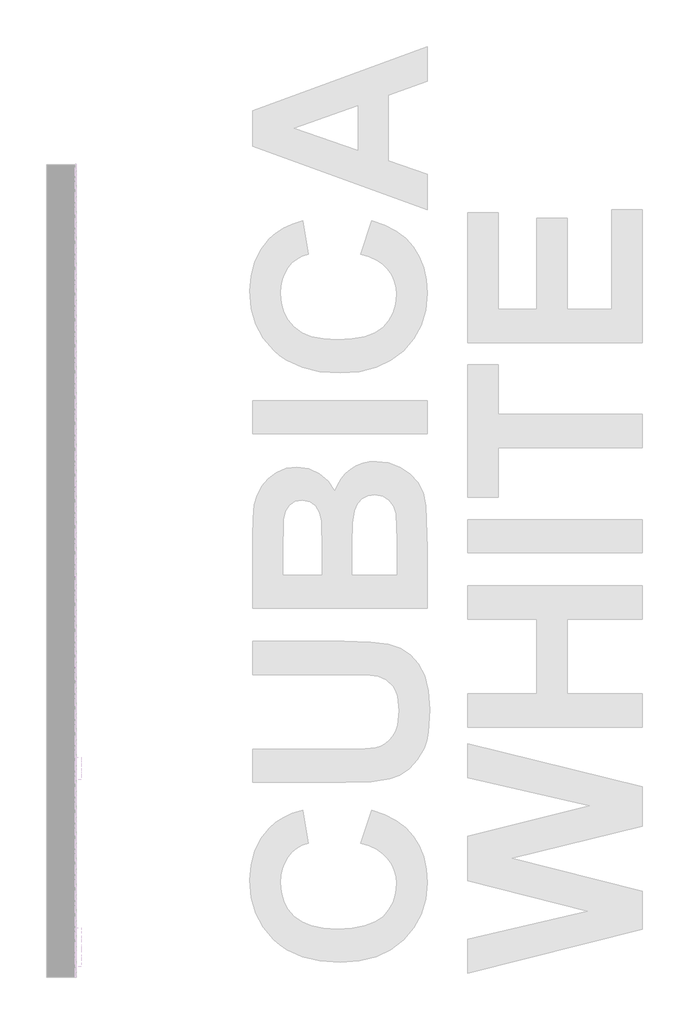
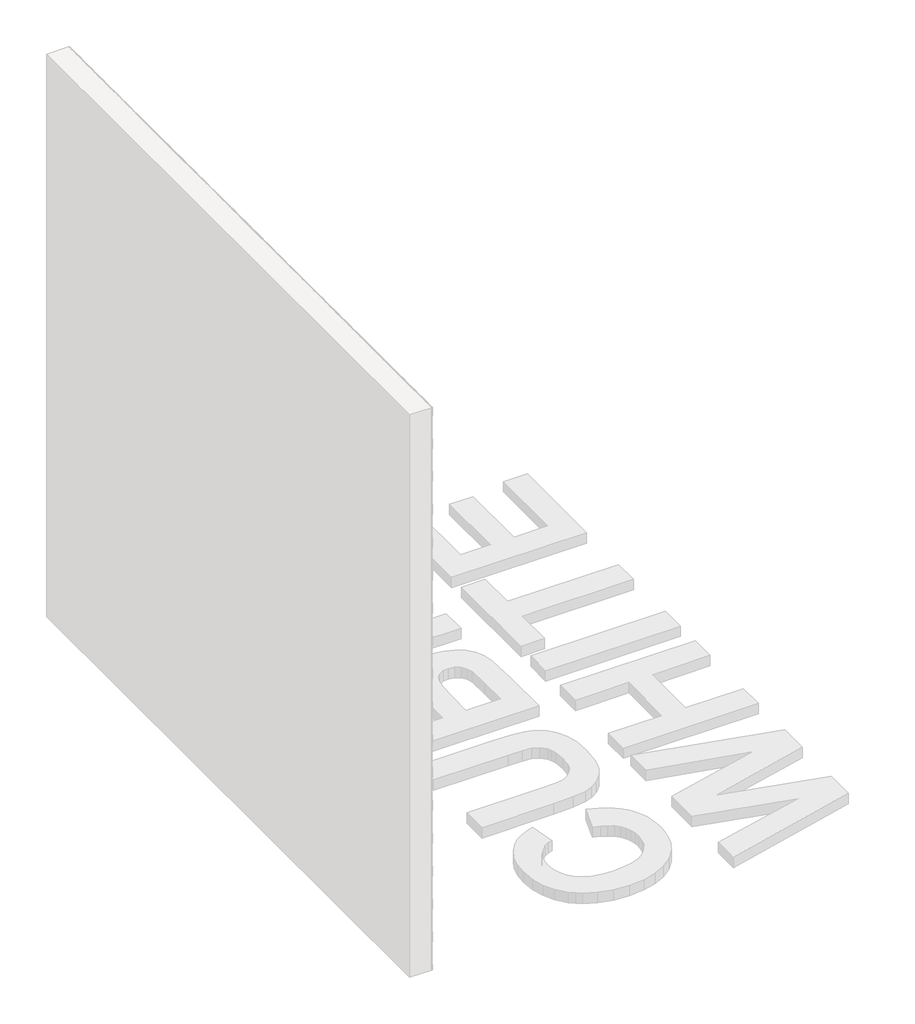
# One storey, part 110 of 121: 144 proxies.
"""IFC4 building model written with IfcOpenShell, lengths in millimetres."""

from ifc_helpers import new_model, si_unit, origin, place, context, project, spatial, transform, mapped, element, save
from components import generic_models_b2b2c5c1, generic_models_9bf73f6f, generic_models_5d175859

model = new_model("IFC4")

# Units and contexts
model_context = context("Model", 3, world=origin())
ifc_project = project(units=[si_unit("LENGTHUNIT", "METRE", prefix="MILLI")], contexts=[model_context])

# Site, building, storey
site = spatial("IfcSite", under=ifc_project)
building = spatial("IfcBuilding", under=site)
storey = spatial("IfcBuildingStorey", under=building, Name="PORTOBELLO - SHOWROOM", Elevation=0.0)

# Proxies
placement = place(None, origin())
generic_models_shape = generic_models_b2b2c5c1(model_context)
element("IfcBuildingElementProxy", 1, Name="PBSHOP - CUBICA WHITE 4,8X8,3 : CUBICA WHITE - POSIÇÃO 01", ObjectType="PBSHOP - CUBICA WHITE 4,8X8,3 : CUBICA WHITE - POSIÇÃO 01", at=placement, inside=storey, context=model_context, shape_type="MappedRepresentation", body=[
    mapped(generic_models_shape, transform((150369.5341846, 20967.9134958, 1854.9188494), x_axis=(0.0, 1.0, 0.0), y_axis=(0.0, 0.0, 1.0), z_axis=(1.0, 0.0, 0.0))),
])
element("IfcBuildingElementProxy", 2, Name="PBSHOP - CUBICA WHITE 4,8X8,3 : CUBICA WHITE - POSIÇÃO 01", ObjectType="PBSHOP - CUBICA WHITE 4,8X8,3 : CUBICA WHITE - POSIÇÃO 01", at=placement, inside=storey, context=model_context, shape_type="MappedRepresentation", body=[
    mapped(generic_models_shape, transform((150369.5341846, 20014.1011688, 1933.8534878), x_axis=(0.0, 1.0, 0.0), y_axis=(0.0, 0.0, 1.0), z_axis=(1.0, 0.0, 0.0))),
])
element("IfcBuildingElementProxy", 3, Name="PBSHOP - CUBICA WHITE 4,8X8,3 : CUBICA WHITE - POSIÇÃO 01", ObjectType="PBSHOP - CUBICA WHITE 4,8X8,3 : CUBICA WHITE - POSIÇÃO 01", at=placement, inside=storey, context=model_context, shape_type="MappedRepresentation", body=[
    mapped(generic_models_shape, transform((150369.5341846, 20104.940438, 1933.8534878), x_axis=(0.0, 1.0, 0.0), y_axis=(0.0, 0.0, 1.0), z_axis=(1.0, 0.0, 0.0))),
])
element("IfcBuildingElementProxy", 4, Name="PBSHOP - CUBICA WHITE 4,8X8,3 : CUBICA WHITE - POSIÇÃO 01", ObjectType="PBSHOP - CUBICA WHITE 4,8X8,3 : CUBICA WHITE - POSIÇÃO 01", at=placement, inside=storey, context=model_context, shape_type="MappedRepresentation", body=[
    mapped(generic_models_shape, transform((150369.5341846, 20195.7797073, 1933.8534878), x_axis=(0.0, 1.0, 0.0), y_axis=(0.0, 0.0, 1.0), z_axis=(1.0, 0.0, 0.0))),
])
element("IfcBuildingElementProxy", 5, Name="PBSHOP - CUBICA WHITE 4,8X8,3 : CUBICA WHITE - POSIÇÃO 01", ObjectType="PBSHOP - CUBICA WHITE 4,8X8,3 : CUBICA WHITE - POSIÇÃO 01", at=placement, inside=storey, context=model_context, shape_type="MappedRepresentation", body=[
    mapped(generic_models_shape, transform((150369.5341846, 20286.6189765, 1933.8534878), x_axis=(0.0, 1.0, 0.0), y_axis=(0.0, 0.0, 1.0), z_axis=(1.0, 0.0, 0.0))),
])
element("IfcBuildingElementProxy", 6, Name="PBSHOP - CUBICA WHITE 4,8X8,3 : CUBICA WHITE - POSIÇÃO 01", ObjectType="PBSHOP - CUBICA WHITE 4,8X8,3 : CUBICA WHITE - POSIÇÃO 01", at=placement, inside=storey, context=model_context, shape_type="MappedRepresentation", body=[
    mapped(generic_models_shape, transform((150369.5341846, 20377.4582457, 1933.8534878), x_axis=(0.0, 1.0, 0.0), y_axis=(0.0, 0.0, 1.0), z_axis=(1.0, 0.0, 0.0))),
])
element("IfcBuildingElementProxy", 7, Name="PBSHOP - CUBICA WHITE 4,8X8,3 : CUBICA WHITE - POSIÇÃO 01", ObjectType="PBSHOP - CUBICA WHITE 4,8X8,3 : CUBICA WHITE - POSIÇÃO 01", at=placement, inside=storey, context=model_context, shape_type="MappedRepresentation", body=[
    mapped(generic_models_shape, transform((150369.5341846, 20468.297515, 1933.8534878), x_axis=(0.0, 1.0, 0.0), y_axis=(0.0, 0.0, 1.0), z_axis=(1.0, 0.0, 0.0))),
])
element("IfcBuildingElementProxy", 8, Name="PBSHOP - CUBICA WHITE 4,8X8,3 : CUBICA WHITE - POSIÇÃO 01", ObjectType="PBSHOP - CUBICA WHITE 4,8X8,3 : CUBICA WHITE - POSIÇÃO 01", at=placement, inside=storey, context=model_context, shape_type="MappedRepresentation", body=[
    mapped(generic_models_shape, transform((150369.5341846, 20559.1367842, 1933.8534878), x_axis=(0.0, 1.0, 0.0), y_axis=(0.0, 0.0, 1.0), z_axis=(1.0, 0.0, 0.0))),
])
element("IfcBuildingElementProxy", 9, Name="PBSHOP - CUBICA WHITE 4,8X8,3 : CUBICA WHITE - POSIÇÃO 01", ObjectType="PBSHOP - CUBICA WHITE 4,8X8,3 : CUBICA WHITE - POSIÇÃO 01", at=placement, inside=storey, context=model_context, shape_type="MappedRepresentation", body=[
    mapped(generic_models_shape, transform((150369.5341846, 20649.9760535, 1933.8534878), x_axis=(0.0, 1.0, 0.0), y_axis=(0.0, 0.0, 1.0), z_axis=(1.0, 0.0, 0.0))),
])
element("IfcBuildingElementProxy", 10, Name="PBSHOP - CUBICA WHITE 4,8X8,3 : CUBICA WHITE - POSIÇÃO 01", ObjectType="PBSHOP - CUBICA WHITE 4,8X8,3 : CUBICA WHITE - POSIÇÃO 01", at=placement, inside=storey, context=model_context, shape_type="MappedRepresentation", body=[
    mapped(generic_models_shape, transform((150369.5341846, 20740.8153227, 1933.8534878), x_axis=(0.0, 1.0, 0.0), y_axis=(0.0, 0.0, 1.0), z_axis=(1.0, 0.0, 0.0))),
])
element("IfcBuildingElementProxy", 11, Name="PBSHOP - CUBICA WHITE 4,8X8,3 : CUBICA WHITE - POSIÇÃO 01", ObjectType="PBSHOP - CUBICA WHITE 4,8X8,3 : CUBICA WHITE - POSIÇÃO 01", at=placement, inside=storey, context=model_context, shape_type="MappedRepresentation", body=[
    mapped(generic_models_shape, transform((150369.5341846, 20831.654592, 1933.8534878), x_axis=(0.0, 1.0, 0.0), y_axis=(0.0, 0.0, 1.0), z_axis=(1.0, 0.0, 0.0))),
])
element("IfcBuildingElementProxy", 12, Name="PBSHOP - CUBICA WHITE 4,8X8,3 : CUBICA WHITE - POSIÇÃO 01", ObjectType="PBSHOP - CUBICA WHITE 4,8X8,3 : CUBICA WHITE - POSIÇÃO 01", at=placement, inside=storey, context=model_context, shape_type="MappedRepresentation", body=[
    mapped(generic_models_shape, transform((150369.5341846, 20922.4938612, 1933.8534878), x_axis=(0.0, 1.0, 0.0), y_axis=(0.0, 0.0, 1.0), z_axis=(1.0, 0.0, 0.0))),
])
element("IfcBuildingElementProxy", 13, Name="PBSHOP - CUBICA WHITE 4,8X8,3 : CUBICA WHITE - POSIÇÃO 01", ObjectType="PBSHOP - CUBICA WHITE 4,8X8,3 : CUBICA WHITE - POSIÇÃO 01", at=placement, inside=storey, context=model_context, shape_type="MappedRepresentation", body=[
    mapped(generic_models_shape, transform((150369.5341846, 20059.5208034, 2012.7881262), x_axis=(0.0, 1.0, 0.0), y_axis=(0.0, 0.0, 1.0), z_axis=(1.0, 0.0, 0.0))),
])
element("IfcBuildingElementProxy", 14, Name="PBSHOP - CUBICA WHITE 4,8X8,3 : CUBICA WHITE - POSIÇÃO 01", ObjectType="PBSHOP - CUBICA WHITE 4,8X8,3 : CUBICA WHITE - POSIÇÃO 01", at=placement, inside=storey, context=model_context, shape_type="MappedRepresentation", body=[
    mapped(generic_models_shape, transform((150369.5341846, 20150.3600726, 2012.7881262), x_axis=(0.0, 1.0, 0.0), y_axis=(0.0, 0.0, 1.0), z_axis=(1.0, 0.0, 0.0))),
])
element("IfcBuildingElementProxy", 15, Name="PBSHOP - CUBICA WHITE 4,8X8,3 : CUBICA WHITE - POSIÇÃO 01", ObjectType="PBSHOP - CUBICA WHITE 4,8X8,3 : CUBICA WHITE - POSIÇÃO 01", at=placement, inside=storey, context=model_context, shape_type="MappedRepresentation", body=[
    mapped(generic_models_shape, transform((150369.5341846, 20241.1993419, 2012.7881262), x_axis=(0.0, 1.0, 0.0), y_axis=(0.0, 0.0, 1.0), z_axis=(1.0, 0.0, 0.0))),
])
element("IfcBuildingElementProxy", 16, Name="PBSHOP - CUBICA WHITE 4,8X8,3 : CUBICA WHITE - POSIÇÃO 01", ObjectType="PBSHOP - CUBICA WHITE 4,8X8,3 : CUBICA WHITE - POSIÇÃO 01", at=placement, inside=storey, context=model_context, shape_type="MappedRepresentation", body=[
    mapped(generic_models_shape, transform((150369.5341846, 20332.0386111, 2012.7881262), x_axis=(0.0, 1.0, 0.0), y_axis=(0.0, 0.0, 1.0), z_axis=(1.0, 0.0, 0.0))),
])
element("IfcBuildingElementProxy", 17, Name="PBSHOP - CUBICA WHITE 4,8X8,3 : CUBICA WHITE - POSIÇÃO 01", ObjectType="PBSHOP - CUBICA WHITE 4,8X8,3 : CUBICA WHITE - POSIÇÃO 01", at=placement, inside=storey, context=model_context, shape_type="MappedRepresentation", body=[
    mapped(generic_models_shape, transform((150369.5341846, 20422.8778804, 2012.7881262), x_axis=(0.0, 1.0, 0.0), y_axis=(0.0, 0.0, 1.0), z_axis=(1.0, 0.0, 0.0))),
])
element("IfcBuildingElementProxy", 18, Name="PBSHOP - CUBICA WHITE 4,8X8,3 : CUBICA WHITE - POSIÇÃO 01", ObjectType="PBSHOP - CUBICA WHITE 4,8X8,3 : CUBICA WHITE - POSIÇÃO 01", at=placement, inside=storey, context=model_context, shape_type="MappedRepresentation", body=[
    mapped(generic_models_shape, transform((150369.5341846, 20513.7171496, 2012.7881262), x_axis=(0.0, 1.0, 0.0), y_axis=(0.0, 0.0, 1.0), z_axis=(1.0, 0.0, 0.0))),
])
element("IfcBuildingElementProxy", 19, Name="PBSHOP - CUBICA WHITE 4,8X8,3 : CUBICA WHITE - POSIÇÃO 01", ObjectType="PBSHOP - CUBICA WHITE 4,8X8,3 : CUBICA WHITE - POSIÇÃO 01", at=placement, inside=storey, context=model_context, shape_type="MappedRepresentation", body=[
    mapped(generic_models_shape, transform((150369.5341846, 20604.5564189, 2012.7881262), x_axis=(0.0, 1.0, 0.0), y_axis=(0.0, 0.0, 1.0), z_axis=(1.0, 0.0, 0.0))),
])
element("IfcBuildingElementProxy", 20, Name="PBSHOP - CUBICA WHITE 4,8X8,3 : CUBICA WHITE - POSIÇÃO 01", ObjectType="PBSHOP - CUBICA WHITE 4,8X8,3 : CUBICA WHITE - POSIÇÃO 01", at=placement, inside=storey, context=model_context, shape_type="MappedRepresentation", body=[
    mapped(generic_models_shape, transform((150369.5341846, 20695.3956881, 2012.7881262), x_axis=(0.0, 1.0, 0.0), y_axis=(0.0, 0.0, 1.0), z_axis=(1.0, 0.0, 0.0))),
])
element("IfcBuildingElementProxy", 21, Name="PBSHOP - CUBICA WHITE 4,8X8,3 : CUBICA WHITE - POSIÇÃO 01", ObjectType="PBSHOP - CUBICA WHITE 4,8X8,3 : CUBICA WHITE - POSIÇÃO 01", at=placement, inside=storey, context=model_context, shape_type="MappedRepresentation", body=[
    mapped(generic_models_shape, transform((150369.5341846, 20786.2349573, 2012.7881262), x_axis=(0.0, 1.0, 0.0), y_axis=(0.0, 0.0, 1.0), z_axis=(1.0, 0.0, 0.0))),
])
element("IfcBuildingElementProxy", 22, Name="PBSHOP - CUBICA WHITE 4,8X8,3 : CUBICA WHITE - POSIÇÃO 01", ObjectType="PBSHOP - CUBICA WHITE 4,8X8,3 : CUBICA WHITE - POSIÇÃO 01", at=placement, inside=storey, context=model_context, shape_type="MappedRepresentation", body=[
    mapped(generic_models_shape, transform((150369.5341846, 20877.0742266, 2012.7881262), x_axis=(0.0, 1.0, 0.0), y_axis=(0.0, 0.0, 1.0), z_axis=(1.0, 0.0, 0.0))),
])
element("IfcBuildingElementProxy", 23, Name="PBSHOP - CUBICA WHITE 4,8X8,3 : CUBICA WHITE - POSIÇÃO 01", ObjectType="PBSHOP - CUBICA WHITE 4,8X8,3 : CUBICA WHITE - POSIÇÃO 01", at=placement, inside=storey, context=model_context, shape_type="MappedRepresentation", body=[
    mapped(generic_models_shape, transform((150369.5341846, 20967.9134958, 2012.7881262), x_axis=(0.0, 1.0, 0.0), y_axis=(0.0, 0.0, 1.0), z_axis=(1.0, 0.0, 0.0))),
])
element("IfcBuildingElementProxy", 24, Name="PBSHOP - CUBICA WHITE 4,8X8,3 : CUBICA WHITE - POSIÇÃO 01", ObjectType="PBSHOP - CUBICA WHITE 4,8X8,3 : CUBICA WHITE - POSIÇÃO 01", at=placement, inside=storey, context=model_context, shape_type="MappedRepresentation", body=[
    mapped(generic_models_shape, transform((150369.5341846, 20014.1011688, 2091.7227645), x_axis=(0.0, 1.0, 0.0), y_axis=(0.0, 0.0, 1.0), z_axis=(1.0, 0.0, 0.0))),
])
element("IfcBuildingElementProxy", 25, Name="PBSHOP - CUBICA WHITE 4,8X8,3 : CUBICA WHITE - POSIÇÃO 01", ObjectType="PBSHOP - CUBICA WHITE 4,8X8,3 : CUBICA WHITE - POSIÇÃO 01", at=placement, inside=storey, context=model_context, shape_type="MappedRepresentation", body=[
    mapped(generic_models_shape, transform((150369.5341846, 20104.940438, 2091.7227645), x_axis=(0.0, 1.0, 0.0), y_axis=(0.0, 0.0, 1.0), z_axis=(1.0, 0.0, 0.0))),
])
element("IfcBuildingElementProxy", 26, Name="PBSHOP - CUBICA WHITE 4,8X8,3 : CUBICA WHITE - POSIÇÃO 01", ObjectType="PBSHOP - CUBICA WHITE 4,8X8,3 : CUBICA WHITE - POSIÇÃO 01", at=placement, inside=storey, context=model_context, shape_type="MappedRepresentation", body=[
    mapped(generic_models_shape, transform((150369.5341846, 20195.7797073, 2091.7227645), x_axis=(0.0, 1.0, 0.0), y_axis=(0.0, 0.0, 1.0), z_axis=(1.0, 0.0, 0.0))),
])
element("IfcBuildingElementProxy", 27, Name="PBSHOP - CUBICA WHITE 4,8X8,3 : CUBICA WHITE - POSIÇÃO 01", ObjectType="PBSHOP - CUBICA WHITE 4,8X8,3 : CUBICA WHITE - POSIÇÃO 01", at=placement, inside=storey, context=model_context, shape_type="MappedRepresentation", body=[
    mapped(generic_models_shape, transform((150369.5341846, 20286.6189765, 2091.7227645), x_axis=(0.0, 1.0, 0.0), y_axis=(0.0, 0.0, 1.0), z_axis=(1.0, 0.0, 0.0))),
])
element("IfcBuildingElementProxy", 28, Name="PBSHOP - CUBICA WHITE 4,8X8,3 : CUBICA WHITE - POSIÇÃO 01", ObjectType="PBSHOP - CUBICA WHITE 4,8X8,3 : CUBICA WHITE - POSIÇÃO 01", at=placement, inside=storey, context=model_context, shape_type="MappedRepresentation", body=[
    mapped(generic_models_shape, transform((150369.5341846, 20377.4582457, 2091.7227645), x_axis=(0.0, 1.0, 0.0), y_axis=(0.0, 0.0, 1.0), z_axis=(1.0, 0.0, 0.0))),
])
element("IfcBuildingElementProxy", 29, Name="PBSHOP - CUBICA WHITE 4,8X8,3 : CUBICA WHITE - POSIÇÃO 01", ObjectType="PBSHOP - CUBICA WHITE 4,8X8,3 : CUBICA WHITE - POSIÇÃO 01", at=placement, inside=storey, context=model_context, shape_type="MappedRepresentation", body=[
    mapped(generic_models_shape, transform((150369.5341846, 20468.297515, 2091.7227645), x_axis=(0.0, 1.0, 0.0), y_axis=(0.0, 0.0, 1.0), z_axis=(1.0, 0.0, 0.0))),
])
element("IfcBuildingElementProxy", 30, Name="PBSHOP - CUBICA WHITE 4,8X8,3 : CUBICA WHITE - POSIÇÃO 01", ObjectType="PBSHOP - CUBICA WHITE 4,8X8,3 : CUBICA WHITE - POSIÇÃO 01", at=placement, inside=storey, context=model_context, shape_type="MappedRepresentation", body=[
    mapped(generic_models_shape, transform((150369.5341846, 20559.1367842, 2091.7227645), x_axis=(0.0, 1.0, 0.0), y_axis=(0.0, 0.0, 1.0), z_axis=(1.0, 0.0, 0.0))),
])
element("IfcBuildingElementProxy", 31, Name="PBSHOP - CUBICA WHITE 4,8X8,3 : CUBICA WHITE - POSIÇÃO 01", ObjectType="PBSHOP - CUBICA WHITE 4,8X8,3 : CUBICA WHITE - POSIÇÃO 01", at=placement, inside=storey, context=model_context, shape_type="MappedRepresentation", body=[
    mapped(generic_models_shape, transform((150369.5341846, 20649.9760535, 2091.7227645), x_axis=(0.0, 1.0, 0.0), y_axis=(0.0, 0.0, 1.0), z_axis=(1.0, 0.0, 0.0))),
])
element("IfcBuildingElementProxy", 32, Name="PBSHOP - CUBICA WHITE 4,8X8,3 : CUBICA WHITE - POSIÇÃO 01", ObjectType="PBSHOP - CUBICA WHITE 4,8X8,3 : CUBICA WHITE - POSIÇÃO 01", at=placement, inside=storey, context=model_context, shape_type="MappedRepresentation", body=[
    mapped(generic_models_shape, transform((150369.5341846, 20740.8153227, 2091.7227645), x_axis=(0.0, 1.0, 0.0), y_axis=(0.0, 0.0, 1.0), z_axis=(1.0, 0.0, 0.0))),
])
element("IfcBuildingElementProxy", 33, Name="PBSHOP - CUBICA WHITE 4,8X8,3 : CUBICA WHITE - POSIÇÃO 01", ObjectType="PBSHOP - CUBICA WHITE 4,8X8,3 : CUBICA WHITE - POSIÇÃO 01", at=placement, inside=storey, context=model_context, shape_type="MappedRepresentation", body=[
    mapped(generic_models_shape, transform((150369.5341846, 20831.654592, 2091.7227645), x_axis=(0.0, 1.0, 0.0), y_axis=(0.0, 0.0, 1.0), z_axis=(1.0, 0.0, 0.0))),
])
element("IfcBuildingElementProxy", 34, Name="PBSHOP - CUBICA WHITE 4,8X8,3 : CUBICA WHITE - POSIÇÃO 01", ObjectType="PBSHOP - CUBICA WHITE 4,8X8,3 : CUBICA WHITE - POSIÇÃO 01", at=placement, inside=storey, context=model_context, shape_type="MappedRepresentation", body=[
    mapped(generic_models_shape, transform((150369.5341846, 20922.4938612, 2091.7227645), x_axis=(0.0, 1.0, 0.0), y_axis=(0.0, 0.0, 1.0), z_axis=(1.0, 0.0, 0.0))),
])
element("IfcBuildingElementProxy", 35, Name="PBSHOP - CUBICA WHITE 4,8X8,3 : CUBICA WHITE - POSIÇÃO 01", ObjectType="PBSHOP - CUBICA WHITE 4,8X8,3 : CUBICA WHITE - POSIÇÃO 01", at=placement, inside=storey, context=model_context, shape_type="MappedRepresentation", body=[
    mapped(generic_models_shape, transform((150369.5341846, 20059.5208034, 2170.6574029), x_axis=(0.0, 1.0, 0.0), y_axis=(0.0, 0.0, 1.0), z_axis=(1.0, 0.0, 0.0))),
])
element("IfcBuildingElementProxy", 36, Name="PBSHOP - CUBICA WHITE 4,8X8,3 : CUBICA WHITE - POSIÇÃO 01", ObjectType="PBSHOP - CUBICA WHITE 4,8X8,3 : CUBICA WHITE - POSIÇÃO 01", at=placement, inside=storey, context=model_context, shape_type="MappedRepresentation", body=[
    mapped(generic_models_shape, transform((150369.5341846, 20150.3600726, 2170.6574029), x_axis=(0.0, 1.0, 0.0), y_axis=(0.0, 0.0, 1.0), z_axis=(1.0, 0.0, 0.0))),
])
element("IfcBuildingElementProxy", 37, Name="PBSHOP - CUBICA WHITE 4,8X8,3 : CUBICA WHITE - POSIÇÃO 01", ObjectType="PBSHOP - CUBICA WHITE 4,8X8,3 : CUBICA WHITE - POSIÇÃO 01", at=placement, inside=storey, context=model_context, shape_type="MappedRepresentation", body=[
    mapped(generic_models_shape, transform((150369.5341846, 20241.1993419, 2170.6574029), x_axis=(0.0, 1.0, 0.0), y_axis=(0.0, 0.0, 1.0), z_axis=(1.0, 0.0, 0.0))),
])
element("IfcBuildingElementProxy", 38, Name="PBSHOP - CUBICA WHITE 4,8X8,3 : CUBICA WHITE - POSIÇÃO 01", ObjectType="PBSHOP - CUBICA WHITE 4,8X8,3 : CUBICA WHITE - POSIÇÃO 01", at=placement, inside=storey, context=model_context, shape_type="MappedRepresentation", body=[
    mapped(generic_models_shape, transform((150369.5341846, 20332.0386111, 2170.6574029), x_axis=(0.0, 1.0, 0.0), y_axis=(0.0, 0.0, 1.0), z_axis=(1.0, 0.0, 0.0))),
])
element("IfcBuildingElementProxy", 39, Name="PBSHOP - CUBICA WHITE 4,8X8,3 : CUBICA WHITE - POSIÇÃO 01", ObjectType="PBSHOP - CUBICA WHITE 4,8X8,3 : CUBICA WHITE - POSIÇÃO 01", at=placement, inside=storey, context=model_context, shape_type="MappedRepresentation", body=[
    mapped(generic_models_shape, transform((150369.5341846, 20422.8778804, 2170.6574029), x_axis=(0.0, 1.0, 0.0), y_axis=(0.0, 0.0, 1.0), z_axis=(1.0, 0.0, 0.0))),
])
element("IfcBuildingElementProxy", 40, Name="PBSHOP - CUBICA WHITE 4,8X8,3 : CUBICA WHITE - POSIÇÃO 01", ObjectType="PBSHOP - CUBICA WHITE 4,8X8,3 : CUBICA WHITE - POSIÇÃO 01", at=placement, inside=storey, context=model_context, shape_type="MappedRepresentation", body=[
    mapped(generic_models_shape, transform((150369.5341846, 20513.7171496, 2170.6574029), x_axis=(0.0, 1.0, 0.0), y_axis=(0.0, 0.0, 1.0), z_axis=(1.0, 0.0, 0.0))),
])
element("IfcBuildingElementProxy", 41, Name="PBSHOP - CUBICA WHITE 4,8X8,3 : CUBICA WHITE - POSIÇÃO 01", ObjectType="PBSHOP - CUBICA WHITE 4,8X8,3 : CUBICA WHITE - POSIÇÃO 01", at=placement, inside=storey, context=model_context, shape_type="MappedRepresentation", body=[
    mapped(generic_models_shape, transform((150369.5341846, 20604.5564189, 2170.6574029), x_axis=(0.0, 1.0, 0.0), y_axis=(0.0, 0.0, 1.0), z_axis=(1.0, 0.0, 0.0))),
])
element("IfcBuildingElementProxy", 42, Name="PBSHOP - CUBICA WHITE 4,8X8,3 : CUBICA WHITE - POSIÇÃO 01", ObjectType="PBSHOP - CUBICA WHITE 4,8X8,3 : CUBICA WHITE - POSIÇÃO 01", at=placement, inside=storey, context=model_context, shape_type="MappedRepresentation", body=[
    mapped(generic_models_shape, transform((150369.5341846, 20695.3956881, 2170.6574029), x_axis=(0.0, 1.0, 0.0), y_axis=(0.0, 0.0, 1.0), z_axis=(1.0, 0.0, 0.0))),
])
element("IfcBuildingElementProxy", 43, Name="PBSHOP - CUBICA WHITE 4,8X8,3 : CUBICA WHITE - POSIÇÃO 01", ObjectType="PBSHOP - CUBICA WHITE 4,8X8,3 : CUBICA WHITE - POSIÇÃO 01", at=placement, inside=storey, context=model_context, shape_type="MappedRepresentation", body=[
    mapped(generic_models_shape, transform((150369.5341846, 20786.2349573, 2170.6574029), x_axis=(0.0, 1.0, 0.0), y_axis=(0.0, 0.0, 1.0), z_axis=(1.0, 0.0, 0.0))),
])
element("IfcBuildingElementProxy", 44, Name="PBSHOP - CUBICA WHITE 4,8X8,3 : CUBICA WHITE - POSIÇÃO 01", ObjectType="PBSHOP - CUBICA WHITE 4,8X8,3 : CUBICA WHITE - POSIÇÃO 01", at=placement, inside=storey, context=model_context, shape_type="MappedRepresentation", body=[
    mapped(generic_models_shape, transform((150369.5341846, 20877.0742266, 2170.6574029), x_axis=(0.0, 1.0, 0.0), y_axis=(0.0, 0.0, 1.0), z_axis=(1.0, 0.0, 0.0))),
])
element("IfcBuildingElementProxy", 45, Name="PBSHOP - CUBICA WHITE 4,8X8,3 : CUBICA WHITE - POSIÇÃO 01", ObjectType="PBSHOP - CUBICA WHITE 4,8X8,3 : CUBICA WHITE - POSIÇÃO 01", at=placement, inside=storey, context=model_context, shape_type="MappedRepresentation", body=[
    mapped(generic_models_shape, transform((150369.5341846, 20967.9134958, 2170.6574029), x_axis=(0.0, 1.0, 0.0), y_axis=(0.0, 0.0, 1.0), z_axis=(1.0, 0.0, 0.0))),
])
generic_models_2_shape = generic_models_9bf73f6f(model_context)
element("IfcBuildingElementProxy", 46, Name="PBSHOP - CUBICA WHITE 4,8X8,3 : CUBICA WHITE - POSIÇÃO 03", ObjectType="PBSHOP - CUBICA WHITE 4,8X8,3 : CUBICA WHITE - POSIÇÃO 03", at=placement, inside=storey, context=model_context, shape_type="MappedRepresentation", body=[
    mapped(generic_models_2_shape, transform((150369.5341846, 20036.8131452, 1815.4103198), x_axis=(0.0, 1.0, 0.0), y_axis=(0.0, 0.0, 1.0), z_axis=(1.0, 0.0, 0.0))),
])
element("IfcBuildingElementProxy", 47, Name="PBSHOP - CUBICA WHITE 4,8X8,3 : CUBICA WHITE - POSIÇÃO 03", ObjectType="PBSHOP - CUBICA WHITE 4,8X8,3 : CUBICA WHITE - POSIÇÃO 03", at=placement, inside=storey, context=model_context, shape_type="MappedRepresentation", body=[
    mapped(generic_models_2_shape, transform((150369.5341846, 20127.6524145, 1815.4103198), x_axis=(0.0, 1.0, 0.0), y_axis=(0.0, 0.0, 1.0), z_axis=(1.0, 0.0, 0.0))),
])
element("IfcBuildingElementProxy", 48, Name="PBSHOP - CUBICA WHITE 4,8X8,3 : CUBICA WHITE - POSIÇÃO 03", ObjectType="PBSHOP - CUBICA WHITE 4,8X8,3 : CUBICA WHITE - POSIÇÃO 03", at=placement, inside=storey, context=model_context, shape_type="MappedRepresentation", body=[
    mapped(generic_models_2_shape, transform((150369.5341846, 20218.4916837, 1815.4103198), x_axis=(0.0, 1.0, 0.0), y_axis=(0.0, 0.0, 1.0), z_axis=(1.0, 0.0, 0.0))),
])
element("IfcBuildingElementProxy", 49, Name="PBSHOP - CUBICA WHITE 4,8X8,3 : CUBICA WHITE - POSIÇÃO 03", ObjectType="PBSHOP - CUBICA WHITE 4,8X8,3 : CUBICA WHITE - POSIÇÃO 03", at=placement, inside=storey, context=model_context, shape_type="MappedRepresentation", body=[
    mapped(generic_models_2_shape, transform((150369.5341846, 20309.330953, 1815.4103198), x_axis=(0.0, 1.0, 0.0), y_axis=(0.0, 0.0, 1.0), z_axis=(1.0, 0.0, 0.0))),
])
element("IfcBuildingElementProxy", 50, Name="PBSHOP - CUBICA WHITE 4,8X8,3 : CUBICA WHITE - POSIÇÃO 03", ObjectType="PBSHOP - CUBICA WHITE 4,8X8,3 : CUBICA WHITE - POSIÇÃO 03", at=placement, inside=storey, context=model_context, shape_type="MappedRepresentation", body=[
    mapped(generic_models_2_shape, transform((150369.5341846, 20400.1702222, 1815.4103198), x_axis=(0.0, 1.0, 0.0), y_axis=(0.0, 0.0, 1.0), z_axis=(1.0, 0.0, 0.0))),
])
element("IfcBuildingElementProxy", 51, Name="PBSHOP - CUBICA WHITE 4,8X8,3 : CUBICA WHITE - POSIÇÃO 03", ObjectType="PBSHOP - CUBICA WHITE 4,8X8,3 : CUBICA WHITE - POSIÇÃO 03", at=placement, inside=storey, context=model_context, shape_type="MappedRepresentation", body=[
    mapped(generic_models_2_shape, transform((150369.5341846, 20491.0094915, 1815.4103198), x_axis=(0.0, 1.0, 0.0), y_axis=(0.0, 0.0, 1.0), z_axis=(1.0, 0.0, 0.0))),
])
element("IfcBuildingElementProxy", 52, Name="PBSHOP - CUBICA WHITE 4,8X8,3 : CUBICA WHITE - POSIÇÃO 03", ObjectType="PBSHOP - CUBICA WHITE 4,8X8,3 : CUBICA WHITE - POSIÇÃO 03", at=placement, inside=storey, context=model_context, shape_type="MappedRepresentation", body=[
    mapped(generic_models_2_shape, transform((150369.5341846, 20581.8487607, 1815.4103198), x_axis=(0.0, 1.0, 0.0), y_axis=(0.0, 0.0, 1.0), z_axis=(1.0, 0.0, 0.0))),
])
element("IfcBuildingElementProxy", 53, Name="PBSHOP - CUBICA WHITE 4,8X8,3 : CUBICA WHITE - POSIÇÃO 03", ObjectType="PBSHOP - CUBICA WHITE 4,8X8,3 : CUBICA WHITE - POSIÇÃO 03", at=placement, inside=storey, context=model_context, shape_type="MappedRepresentation", body=[
    mapped(generic_models_2_shape, transform((150369.5341846, 20672.6880299, 1815.4103198), x_axis=(0.0, 1.0, 0.0), y_axis=(0.0, 0.0, 1.0), z_axis=(1.0, 0.0, 0.0))),
])
element("IfcBuildingElementProxy", 54, Name="PBSHOP - CUBICA WHITE 4,8X8,3 : CUBICA WHITE - POSIÇÃO 03", ObjectType="PBSHOP - CUBICA WHITE 4,8X8,3 : CUBICA WHITE - POSIÇÃO 03", at=placement, inside=storey, context=model_context, shape_type="MappedRepresentation", body=[
    mapped(generic_models_2_shape, transform((150369.5341846, 20763.5272992, 1815.4103198), x_axis=(0.0, 1.0, 0.0), y_axis=(0.0, 0.0, 1.0), z_axis=(1.0, 0.0, 0.0))),
])
element("IfcBuildingElementProxy", 55, Name="PBSHOP - CUBICA WHITE 4,8X8,3 : CUBICA WHITE - POSIÇÃO 03", ObjectType="PBSHOP - CUBICA WHITE 4,8X8,3 : CUBICA WHITE - POSIÇÃO 03", at=placement, inside=storey, context=model_context, shape_type="MappedRepresentation", body=[
    mapped(generic_models_2_shape, transform((150369.5341846, 20854.3665684, 1815.4103198), x_axis=(0.0, 1.0, 0.0), y_axis=(0.0, 0.0, 1.0), z_axis=(1.0, 0.0, 0.0))),
])
element("IfcBuildingElementProxy", 56, Name="PBSHOP - CUBICA WHITE 4,8X8,3 : CUBICA WHITE - POSIÇÃO 03", ObjectType="PBSHOP - CUBICA WHITE 4,8X8,3 : CUBICA WHITE - POSIÇÃO 03", at=placement, inside=storey, context=model_context, shape_type="MappedRepresentation", body=[
    mapped(generic_models_2_shape, transform((150369.5341846, 20945.2058377, 1815.4103198), x_axis=(0.0, 1.0, 0.0), y_axis=(0.0, 0.0, 1.0), z_axis=(1.0, 0.0, 0.0))),
])
element("IfcBuildingElementProxy", 57, Name="PBSHOP - CUBICA WHITE 4,8X8,3 : CUBICA WHITE - POSIÇÃO 03", ObjectType="PBSHOP - CUBICA WHITE 4,8X8,3 : CUBICA WHITE - POSIÇÃO 03", at=placement, inside=storey, context=model_context, shape_type="MappedRepresentation", body=[
    mapped(generic_models_2_shape, transform((150369.5341846, 20082.2327799, 1894.3449582), x_axis=(0.0, 1.0, 0.0), y_axis=(0.0, 0.0, 1.0), z_axis=(1.0, 0.0, 0.0))),
])
element("IfcBuildingElementProxy", 58, Name="PBSHOP - CUBICA WHITE 4,8X8,3 : CUBICA WHITE - POSIÇÃO 03", ObjectType="PBSHOP - CUBICA WHITE 4,8X8,3 : CUBICA WHITE - POSIÇÃO 03", at=placement, inside=storey, context=model_context, shape_type="MappedRepresentation", body=[
    mapped(generic_models_2_shape, transform((150369.5341846, 20173.0720491, 1894.3449582), x_axis=(0.0, 1.0, 0.0), y_axis=(0.0, 0.0, 1.0), z_axis=(1.0, 0.0, 0.0))),
])
element("IfcBuildingElementProxy", 59, Name="PBSHOP - CUBICA WHITE 4,8X8,3 : CUBICA WHITE - POSIÇÃO 03", ObjectType="PBSHOP - CUBICA WHITE 4,8X8,3 : CUBICA WHITE - POSIÇÃO 03", at=placement, inside=storey, context=model_context, shape_type="MappedRepresentation", body=[
    mapped(generic_models_2_shape, transform((150369.5341846, 20263.9113184, 1894.3449582), x_axis=(0.0, 1.0, 0.0), y_axis=(0.0, 0.0, 1.0), z_axis=(1.0, 0.0, 0.0))),
])
element("IfcBuildingElementProxy", 60, Name="PBSHOP - CUBICA WHITE 4,8X8,3 : CUBICA WHITE - POSIÇÃO 03", ObjectType="PBSHOP - CUBICA WHITE 4,8X8,3 : CUBICA WHITE - POSIÇÃO 03", at=placement, inside=storey, context=model_context, shape_type="MappedRepresentation", body=[
    mapped(generic_models_2_shape, transform((150369.5341846, 20354.7505876, 1894.3449582), x_axis=(0.0, 1.0, 0.0), y_axis=(0.0, 0.0, 1.0), z_axis=(1.0, 0.0, 0.0))),
])
element("IfcBuildingElementProxy", 61, Name="PBSHOP - CUBICA WHITE 4,8X8,3 : CUBICA WHITE - POSIÇÃO 03", ObjectType="PBSHOP - CUBICA WHITE 4,8X8,3 : CUBICA WHITE - POSIÇÃO 03", at=placement, inside=storey, context=model_context, shape_type="MappedRepresentation", body=[
    mapped(generic_models_2_shape, transform((150369.5341846, 20445.5898568, 1894.3449582), x_axis=(0.0, 1.0, 0.0), y_axis=(0.0, 0.0, 1.0), z_axis=(1.0, 0.0, 0.0))),
])
element("IfcBuildingElementProxy", 62, Name="PBSHOP - CUBICA WHITE 4,8X8,3 : CUBICA WHITE - POSIÇÃO 03", ObjectType="PBSHOP - CUBICA WHITE 4,8X8,3 : CUBICA WHITE - POSIÇÃO 03", at=placement, inside=storey, context=model_context, shape_type="MappedRepresentation", body=[
    mapped(generic_models_2_shape, transform((150369.5341846, 20536.4291261, 1894.3449582), x_axis=(0.0, 1.0, 0.0), y_axis=(0.0, 0.0, 1.0), z_axis=(1.0, 0.0, 0.0))),
])
element("IfcBuildingElementProxy", 63, Name="PBSHOP - CUBICA WHITE 4,8X8,3 : CUBICA WHITE - POSIÇÃO 03", ObjectType="PBSHOP - CUBICA WHITE 4,8X8,3 : CUBICA WHITE - POSIÇÃO 03", at=placement, inside=storey, context=model_context, shape_type="MappedRepresentation", body=[
    mapped(generic_models_2_shape, transform((150369.5341846, 20627.2683953, 1894.3449582), x_axis=(0.0, 1.0, 0.0), y_axis=(0.0, 0.0, 1.0), z_axis=(1.0, 0.0, 0.0))),
])
element("IfcBuildingElementProxy", 64, Name="PBSHOP - CUBICA WHITE 4,8X8,3 : CUBICA WHITE - POSIÇÃO 03", ObjectType="PBSHOP - CUBICA WHITE 4,8X8,3 : CUBICA WHITE - POSIÇÃO 03", at=placement, inside=storey, context=model_context, shape_type="MappedRepresentation", body=[
    mapped(generic_models_2_shape, transform((150369.5341846, 20718.1076646, 1894.3449582), x_axis=(0.0, 1.0, 0.0), y_axis=(0.0, 0.0, 1.0), z_axis=(1.0, 0.0, 0.0))),
])
element("IfcBuildingElementProxy", 65, Name="PBSHOP - CUBICA WHITE 4,8X8,3 : CUBICA WHITE - POSIÇÃO 03", ObjectType="PBSHOP - CUBICA WHITE 4,8X8,3 : CUBICA WHITE - POSIÇÃO 03", at=placement, inside=storey, context=model_context, shape_type="MappedRepresentation", body=[
    mapped(generic_models_2_shape, transform((150369.5341846, 20808.9469338, 1894.3449582), x_axis=(0.0, 1.0, 0.0), y_axis=(0.0, 0.0, 1.0), z_axis=(1.0, 0.0, 0.0))),
])
element("IfcBuildingElementProxy", 66, Name="PBSHOP - CUBICA WHITE 4,8X8,3 : CUBICA WHITE - POSIÇÃO 03", ObjectType="PBSHOP - CUBICA WHITE 4,8X8,3 : CUBICA WHITE - POSIÇÃO 03", at=placement, inside=storey, context=model_context, shape_type="MappedRepresentation", body=[
    mapped(generic_models_2_shape, transform((150369.5341846, 20899.7862031, 1894.3449582), x_axis=(0.0, 1.0, 0.0), y_axis=(0.0, 0.0, 1.0), z_axis=(1.0, 0.0, 0.0))),
])
element("IfcBuildingElementProxy", 67, Name="PBSHOP - CUBICA WHITE 4,8X8,3 : CUBICA WHITE - POSIÇÃO 03", ObjectType="PBSHOP - CUBICA WHITE 4,8X8,3 : CUBICA WHITE - POSIÇÃO 03", at=placement, inside=storey, context=model_context, shape_type="MappedRepresentation", body=[
    mapped(generic_models_2_shape, transform((150369.5341846, 20990.6254723, 1894.3449582), x_axis=(0.0, 1.0, 0.0), y_axis=(0.0, 0.0, 1.0), z_axis=(1.0, 0.0, 0.0))),
])
element("IfcBuildingElementProxy", 68, Name="PBSHOP - CUBICA WHITE 4,8X8,3 : CUBICA WHITE - POSIÇÃO 03", ObjectType="PBSHOP - CUBICA WHITE 4,8X8,3 : CUBICA WHITE - POSIÇÃO 03", at=placement, inside=storey, context=model_context, shape_type="MappedRepresentation", body=[
    mapped(generic_models_2_shape, transform((150369.5341846, 20036.8131452, 1973.2795966), x_axis=(0.0, 1.0, 0.0), y_axis=(0.0, 0.0, 1.0), z_axis=(1.0, 0.0, 0.0))),
])
element("IfcBuildingElementProxy", 69, Name="PBSHOP - CUBICA WHITE 4,8X8,3 : CUBICA WHITE - POSIÇÃO 03", ObjectType="PBSHOP - CUBICA WHITE 4,8X8,3 : CUBICA WHITE - POSIÇÃO 03", at=placement, inside=storey, context=model_context, shape_type="MappedRepresentation", body=[
    mapped(generic_models_2_shape, transform((150369.5341846, 20127.6524145, 1973.2795966), x_axis=(0.0, 1.0, 0.0), y_axis=(0.0, 0.0, 1.0), z_axis=(1.0, 0.0, 0.0))),
])
element("IfcBuildingElementProxy", 70, Name="PBSHOP - CUBICA WHITE 4,8X8,3 : CUBICA WHITE - POSIÇÃO 03", ObjectType="PBSHOP - CUBICA WHITE 4,8X8,3 : CUBICA WHITE - POSIÇÃO 03", at=placement, inside=storey, context=model_context, shape_type="MappedRepresentation", body=[
    mapped(generic_models_2_shape, transform((150369.5341846, 20218.4916837, 1973.2795966), x_axis=(0.0, 1.0, 0.0), y_axis=(0.0, 0.0, 1.0), z_axis=(1.0, 0.0, 0.0))),
])
element("IfcBuildingElementProxy", 71, Name="PBSHOP - CUBICA WHITE 4,8X8,3 : CUBICA WHITE - POSIÇÃO 03", ObjectType="PBSHOP - CUBICA WHITE 4,8X8,3 : CUBICA WHITE - POSIÇÃO 03", at=placement, inside=storey, context=model_context, shape_type="MappedRepresentation", body=[
    mapped(generic_models_2_shape, transform((150369.5341846, 20309.330953, 1973.2795966), x_axis=(0.0, 1.0, 0.0), y_axis=(0.0, 0.0, 1.0), z_axis=(1.0, 0.0, 0.0))),
])
element("IfcBuildingElementProxy", 72, Name="PBSHOP - CUBICA WHITE 4,8X8,3 : CUBICA WHITE - POSIÇÃO 03", ObjectType="PBSHOP - CUBICA WHITE 4,8X8,3 : CUBICA WHITE - POSIÇÃO 03", at=placement, inside=storey, context=model_context, shape_type="MappedRepresentation", body=[
    mapped(generic_models_2_shape, transform((150369.5341846, 20400.1702222, 1973.2795966), x_axis=(0.0, 1.0, 0.0), y_axis=(0.0, 0.0, 1.0), z_axis=(1.0, 0.0, 0.0))),
])
element("IfcBuildingElementProxy", 73, Name="PBSHOP - CUBICA WHITE 4,8X8,3 : CUBICA WHITE - POSIÇÃO 03", ObjectType="PBSHOP - CUBICA WHITE 4,8X8,3 : CUBICA WHITE - POSIÇÃO 03", at=placement, inside=storey, context=model_context, shape_type="MappedRepresentation", body=[
    mapped(generic_models_2_shape, transform((150369.5341846, 20491.0094915, 1973.2795966), x_axis=(0.0, 1.0, 0.0), y_axis=(0.0, 0.0, 1.0), z_axis=(1.0, 0.0, 0.0))),
])
element("IfcBuildingElementProxy", 74, Name="PBSHOP - CUBICA WHITE 4,8X8,3 : CUBICA WHITE - POSIÇÃO 03", ObjectType="PBSHOP - CUBICA WHITE 4,8X8,3 : CUBICA WHITE - POSIÇÃO 03", at=placement, inside=storey, context=model_context, shape_type="MappedRepresentation", body=[
    mapped(generic_models_2_shape, transform((150369.5341846, 20581.8487607, 1973.2795966), x_axis=(0.0, 1.0, 0.0), y_axis=(0.0, 0.0, 1.0), z_axis=(1.0, 0.0, 0.0))),
])
element("IfcBuildingElementProxy", 75, Name="PBSHOP - CUBICA WHITE 4,8X8,3 : CUBICA WHITE - POSIÇÃO 03", ObjectType="PBSHOP - CUBICA WHITE 4,8X8,3 : CUBICA WHITE - POSIÇÃO 03", at=placement, inside=storey, context=model_context, shape_type="MappedRepresentation", body=[
    mapped(generic_models_2_shape, transform((150369.5341846, 20672.6880299, 1973.2795966), x_axis=(0.0, 1.0, 0.0), y_axis=(0.0, 0.0, 1.0), z_axis=(1.0, 0.0, 0.0))),
])
element("IfcBuildingElementProxy", 76, Name="PBSHOP - CUBICA WHITE 4,8X8,3 : CUBICA WHITE - POSIÇÃO 03", ObjectType="PBSHOP - CUBICA WHITE 4,8X8,3 : CUBICA WHITE - POSIÇÃO 03", at=placement, inside=storey, context=model_context, shape_type="MappedRepresentation", body=[
    mapped(generic_models_2_shape, transform((150369.5341846, 20763.5272992, 1973.2795966), x_axis=(0.0, 1.0, 0.0), y_axis=(0.0, 0.0, 1.0), z_axis=(1.0, 0.0, 0.0))),
])
element("IfcBuildingElementProxy", 77, Name="PBSHOP - CUBICA WHITE 4,8X8,3 : CUBICA WHITE - POSIÇÃO 03", ObjectType="PBSHOP - CUBICA WHITE 4,8X8,3 : CUBICA WHITE - POSIÇÃO 03", at=placement, inside=storey, context=model_context, shape_type="MappedRepresentation", body=[
    mapped(generic_models_2_shape, transform((150369.5341846, 20854.3665684, 1973.2795966), x_axis=(0.0, 1.0, 0.0), y_axis=(0.0, 0.0, 1.0), z_axis=(1.0, 0.0, 0.0))),
])
element("IfcBuildingElementProxy", 78, Name="PBSHOP - CUBICA WHITE 4,8X8,3 : CUBICA WHITE - POSIÇÃO 03", ObjectType="PBSHOP - CUBICA WHITE 4,8X8,3 : CUBICA WHITE - POSIÇÃO 03", at=placement, inside=storey, context=model_context, shape_type="MappedRepresentation", body=[
    mapped(generic_models_2_shape, transform((150369.5341846, 20945.2058377, 1973.2795966), x_axis=(0.0, 1.0, 0.0), y_axis=(0.0, 0.0, 1.0), z_axis=(1.0, 0.0, 0.0))),
])
element("IfcBuildingElementProxy", 79, Name="PBSHOP - CUBICA WHITE 4,8X8,3 : CUBICA WHITE - POSIÇÃO 03", ObjectType="PBSHOP - CUBICA WHITE 4,8X8,3 : CUBICA WHITE - POSIÇÃO 03", at=placement, inside=storey, context=model_context, shape_type="MappedRepresentation", body=[
    mapped(generic_models_2_shape, transform((150369.5341846, 20082.2327799, 2052.2142349), x_axis=(0.0, 1.0, 0.0), y_axis=(0.0, 0.0, 1.0), z_axis=(1.0, 0.0, 0.0))),
])
element("IfcBuildingElementProxy", 80, Name="PBSHOP - CUBICA WHITE 4,8X8,3 : CUBICA WHITE - POSIÇÃO 03", ObjectType="PBSHOP - CUBICA WHITE 4,8X8,3 : CUBICA WHITE - POSIÇÃO 03", at=placement, inside=storey, context=model_context, shape_type="MappedRepresentation", body=[
    mapped(generic_models_2_shape, transform((150369.5341846, 20173.0720491, 2052.2142349), x_axis=(0.0, 1.0, 0.0), y_axis=(0.0, 0.0, 1.0), z_axis=(1.0, 0.0, 0.0))),
])
element("IfcBuildingElementProxy", 81, Name="PBSHOP - CUBICA WHITE 4,8X8,3 : CUBICA WHITE - POSIÇÃO 03", ObjectType="PBSHOP - CUBICA WHITE 4,8X8,3 : CUBICA WHITE - POSIÇÃO 03", at=placement, inside=storey, context=model_context, shape_type="MappedRepresentation", body=[
    mapped(generic_models_2_shape, transform((150369.5341846, 20263.9113184, 2052.2142349), x_axis=(0.0, 1.0, 0.0), y_axis=(0.0, 0.0, 1.0), z_axis=(1.0, 0.0, 0.0))),
])
element("IfcBuildingElementProxy", 82, Name="PBSHOP - CUBICA WHITE 4,8X8,3 : CUBICA WHITE - POSIÇÃO 03", ObjectType="PBSHOP - CUBICA WHITE 4,8X8,3 : CUBICA WHITE - POSIÇÃO 03", at=placement, inside=storey, context=model_context, shape_type="MappedRepresentation", body=[
    mapped(generic_models_2_shape, transform((150369.5341846, 20354.7505876, 2052.2142349), x_axis=(0.0, 1.0, 0.0), y_axis=(0.0, 0.0, 1.0), z_axis=(1.0, 0.0, 0.0))),
])
element("IfcBuildingElementProxy", 83, Name="PBSHOP - CUBICA WHITE 4,8X8,3 : CUBICA WHITE - POSIÇÃO 03", ObjectType="PBSHOP - CUBICA WHITE 4,8X8,3 : CUBICA WHITE - POSIÇÃO 03", at=placement, inside=storey, context=model_context, shape_type="MappedRepresentation", body=[
    mapped(generic_models_2_shape, transform((150369.5341846, 20445.5898568, 2052.2142349), x_axis=(0.0, 1.0, 0.0), y_axis=(0.0, 0.0, 1.0), z_axis=(1.0, 0.0, 0.0))),
])
element("IfcBuildingElementProxy", 84, Name="PBSHOP - CUBICA WHITE 4,8X8,3 : CUBICA WHITE - POSIÇÃO 03", ObjectType="PBSHOP - CUBICA WHITE 4,8X8,3 : CUBICA WHITE - POSIÇÃO 03", at=placement, inside=storey, context=model_context, shape_type="MappedRepresentation", body=[
    mapped(generic_models_2_shape, transform((150369.5341846, 20536.4291261, 2052.2142349), x_axis=(0.0, 1.0, 0.0), y_axis=(0.0, 0.0, 1.0), z_axis=(1.0, 0.0, 0.0))),
])
element("IfcBuildingElementProxy", 85, Name="PBSHOP - CUBICA WHITE 4,8X8,3 : CUBICA WHITE - POSIÇÃO 03", ObjectType="PBSHOP - CUBICA WHITE 4,8X8,3 : CUBICA WHITE - POSIÇÃO 03", at=placement, inside=storey, context=model_context, shape_type="MappedRepresentation", body=[
    mapped(generic_models_2_shape, transform((150369.5341846, 20627.2683953, 2052.2142349), x_axis=(0.0, 1.0, 0.0), y_axis=(0.0, 0.0, 1.0), z_axis=(1.0, 0.0, 0.0))),
])
element("IfcBuildingElementProxy", 86, Name="PBSHOP - CUBICA WHITE 4,8X8,3 : CUBICA WHITE - POSIÇÃO 03", ObjectType="PBSHOP - CUBICA WHITE 4,8X8,3 : CUBICA WHITE - POSIÇÃO 03", at=placement, inside=storey, context=model_context, shape_type="MappedRepresentation", body=[
    mapped(generic_models_2_shape, transform((150369.5341846, 20718.1076646, 2052.2142349), x_axis=(0.0, 1.0, 0.0), y_axis=(0.0, 0.0, 1.0), z_axis=(1.0, 0.0, 0.0))),
])
element("IfcBuildingElementProxy", 87, Name="PBSHOP - CUBICA WHITE 4,8X8,3 : CUBICA WHITE - POSIÇÃO 03", ObjectType="PBSHOP - CUBICA WHITE 4,8X8,3 : CUBICA WHITE - POSIÇÃO 03", at=placement, inside=storey, context=model_context, shape_type="MappedRepresentation", body=[
    mapped(generic_models_2_shape, transform((150369.5341846, 20808.9469338, 2052.2142349), x_axis=(0.0, 1.0, 0.0), y_axis=(0.0, 0.0, 1.0), z_axis=(1.0, 0.0, 0.0))),
])
element("IfcBuildingElementProxy", 88, Name="PBSHOP - CUBICA WHITE 4,8X8,3 : CUBICA WHITE - POSIÇÃO 03", ObjectType="PBSHOP - CUBICA WHITE 4,8X8,3 : CUBICA WHITE - POSIÇÃO 03", at=placement, inside=storey, context=model_context, shape_type="MappedRepresentation", body=[
    mapped(generic_models_2_shape, transform((150369.5341846, 20899.7862031, 2052.2142349), x_axis=(0.0, 1.0, 0.0), y_axis=(0.0, 0.0, 1.0), z_axis=(1.0, 0.0, 0.0))),
])
element("IfcBuildingElementProxy", 89, Name="PBSHOP - CUBICA WHITE 4,8X8,3 : CUBICA WHITE - POSIÇÃO 03", ObjectType="PBSHOP - CUBICA WHITE 4,8X8,3 : CUBICA WHITE - POSIÇÃO 03", at=placement, inside=storey, context=model_context, shape_type="MappedRepresentation", body=[
    mapped(generic_models_2_shape, transform((150369.5341846, 20990.6254723, 2052.2142349), x_axis=(0.0, 1.0, 0.0), y_axis=(0.0, 0.0, 1.0), z_axis=(1.0, 0.0, 0.0))),
])
element("IfcBuildingElementProxy", 90, Name="PBSHOP - CUBICA WHITE 4,8X8,3 : CUBICA WHITE - POSIÇÃO 03", ObjectType="PBSHOP - CUBICA WHITE 4,8X8,3 : CUBICA WHITE - POSIÇÃO 03", at=placement, inside=storey, context=model_context, shape_type="MappedRepresentation", body=[
    mapped(generic_models_2_shape, transform((150369.5341846, 20036.8131452, 2131.1488733), x_axis=(0.0, 1.0, 0.0), y_axis=(0.0, 0.0, 1.0), z_axis=(1.0, 0.0, 0.0))),
])
element("IfcBuildingElementProxy", 91, Name="PBSHOP - CUBICA WHITE 4,8X8,3 : CUBICA WHITE - POSIÇÃO 03", ObjectType="PBSHOP - CUBICA WHITE 4,8X8,3 : CUBICA WHITE - POSIÇÃO 03", at=placement, inside=storey, context=model_context, shape_type="MappedRepresentation", body=[
    mapped(generic_models_2_shape, transform((150369.5341846, 20127.6524145, 2131.1488733), x_axis=(0.0, 1.0, 0.0), y_axis=(0.0, 0.0, 1.0), z_axis=(1.0, 0.0, 0.0))),
])
element("IfcBuildingElementProxy", 92, Name="PBSHOP - CUBICA WHITE 4,8X8,3 : CUBICA WHITE - POSIÇÃO 03", ObjectType="PBSHOP - CUBICA WHITE 4,8X8,3 : CUBICA WHITE - POSIÇÃO 03", at=placement, inside=storey, context=model_context, shape_type="MappedRepresentation", body=[
    mapped(generic_models_2_shape, transform((150369.5341846, 20218.4916837, 2131.1488733), x_axis=(0.0, 1.0, 0.0), y_axis=(0.0, 0.0, 1.0), z_axis=(1.0, 0.0, 0.0))),
])
element("IfcBuildingElementProxy", 93, Name="PBSHOP - CUBICA WHITE 4,8X8,3 : CUBICA WHITE - POSIÇÃO 03", ObjectType="PBSHOP - CUBICA WHITE 4,8X8,3 : CUBICA WHITE - POSIÇÃO 03", at=placement, inside=storey, context=model_context, shape_type="MappedRepresentation", body=[
    mapped(generic_models_2_shape, transform((150369.5341846, 20309.330953, 2131.1488733), x_axis=(0.0, 1.0, 0.0), y_axis=(0.0, 0.0, 1.0), z_axis=(1.0, 0.0, 0.0))),
])
element("IfcBuildingElementProxy", 94, Name="PBSHOP - CUBICA WHITE 4,8X8,3 : CUBICA WHITE - POSIÇÃO 03", ObjectType="PBSHOP - CUBICA WHITE 4,8X8,3 : CUBICA WHITE - POSIÇÃO 03", at=placement, inside=storey, context=model_context, shape_type="MappedRepresentation", body=[
    mapped(generic_models_2_shape, transform((150369.5341846, 20400.1702222, 2131.1488733), x_axis=(0.0, 1.0, 0.0), y_axis=(0.0, 0.0, 1.0), z_axis=(1.0, 0.0, 0.0))),
])
element("IfcBuildingElementProxy", 95, Name="PBSHOP - CUBICA WHITE 4,8X8,3 : CUBICA WHITE - POSIÇÃO 03", ObjectType="PBSHOP - CUBICA WHITE 4,8X8,3 : CUBICA WHITE - POSIÇÃO 03", at=placement, inside=storey, context=model_context, shape_type="MappedRepresentation", body=[
    mapped(generic_models_2_shape, transform((150369.5341846, 20491.0094915, 2131.1488733), x_axis=(0.0, 1.0, 0.0), y_axis=(0.0, 0.0, 1.0), z_axis=(1.0, 0.0, 0.0))),
])
element("IfcBuildingElementProxy", 96, Name="PBSHOP - CUBICA WHITE 4,8X8,3 : CUBICA WHITE - POSIÇÃO 03", ObjectType="PBSHOP - CUBICA WHITE 4,8X8,3 : CUBICA WHITE - POSIÇÃO 03", at=placement, inside=storey, context=model_context, shape_type="MappedRepresentation", body=[
    mapped(generic_models_2_shape, transform((150369.5341846, 20581.8487607, 2131.1488733), x_axis=(0.0, 1.0, 0.0), y_axis=(0.0, 0.0, 1.0), z_axis=(1.0, 0.0, 0.0))),
])
element("IfcBuildingElementProxy", 97, Name="PBSHOP - CUBICA WHITE 4,8X8,3 : CUBICA WHITE - POSIÇÃO 03", ObjectType="PBSHOP - CUBICA WHITE 4,8X8,3 : CUBICA WHITE - POSIÇÃO 03", at=placement, inside=storey, context=model_context, shape_type="MappedRepresentation", body=[
    mapped(generic_models_2_shape, transform((150369.5341846, 20672.6880299, 2131.1488733), x_axis=(0.0, 1.0, 0.0), y_axis=(0.0, 0.0, 1.0), z_axis=(1.0, 0.0, 0.0))),
])
element("IfcBuildingElementProxy", 98, Name="PBSHOP - CUBICA WHITE 4,8X8,3 : CUBICA WHITE - POSIÇÃO 03", ObjectType="PBSHOP - CUBICA WHITE 4,8X8,3 : CUBICA WHITE - POSIÇÃO 03", at=placement, inside=storey, context=model_context, shape_type="MappedRepresentation", body=[
    mapped(generic_models_2_shape, transform((150369.5341846, 20763.5272992, 2131.1488733), x_axis=(0.0, 1.0, 0.0), y_axis=(0.0, 0.0, 1.0), z_axis=(1.0, 0.0, 0.0))),
])
element("IfcBuildingElementProxy", 99, Name="PBSHOP - CUBICA WHITE 4,8X8,3 : CUBICA WHITE - POSIÇÃO 03", ObjectType="PBSHOP - CUBICA WHITE 4,8X8,3 : CUBICA WHITE - POSIÇÃO 03", at=placement, inside=storey, context=model_context, shape_type="MappedRepresentation", body=[
    mapped(generic_models_2_shape, transform((150369.5341846, 20854.3665684, 2131.1488733), x_axis=(0.0, 1.0, 0.0), y_axis=(0.0, 0.0, 1.0), z_axis=(1.0, 0.0, 0.0))),
])
element("IfcBuildingElementProxy", 100, Name="PBSHOP - CUBICA WHITE 4,8X8,3 : CUBICA WHITE - POSIÇÃO 03", ObjectType="PBSHOP - CUBICA WHITE 4,8X8,3 : CUBICA WHITE - POSIÇÃO 03", at=placement, inside=storey, context=model_context, shape_type="MappedRepresentation", body=[
    mapped(generic_models_2_shape, transform((150369.5341846, 20945.2058377, 2131.1488733), x_axis=(0.0, 1.0, 0.0), y_axis=(0.0, 0.0, 1.0), z_axis=(1.0, 0.0, 0.0))),
])
generic_models_3_shape = generic_models_5d175859(model_context)
element("IfcBuildingElementProxy", 101, Name="PBSHOP - CUBICA WHITE 4,8X8,3 : CUBICA WHITE - POSIÇÃO 01", ObjectType="PBSHOP - CUBICA WHITE 4,8X8,3 : CUBICA WHITE - POSIÇÃO 01", at=placement, inside=storey, context=model_context, shape_type="MappedRepresentation", body=[
    mapped(generic_models_3_shape, transform((150369.5341846, 20059.5251217, 1933.8534878), x_axis=(0.0, -1.0, 0.0), y_axis=(0.0, 0.0, -1.0), z_axis=(1.0, 0.0, 0.0))),
])
element("IfcBuildingElementProxy", 102, Name="PBSHOP - CUBICA WHITE 4,8X8,3 : CUBICA WHITE - POSIÇÃO 01", ObjectType="PBSHOP - CUBICA WHITE 4,8X8,3 : CUBICA WHITE - POSIÇÃO 01", at=placement, inside=storey, context=model_context, shape_type="MappedRepresentation", body=[
    mapped(generic_models_3_shape, transform((150369.5341846, 20150.364391, 1933.8534878), x_axis=(0.0, -1.0, 0.0), y_axis=(0.0, 0.0, -1.0), z_axis=(1.0, 0.0, 0.0))),
])
element("IfcBuildingElementProxy", 103, Name="PBSHOP - CUBICA WHITE 4,8X8,3 : CUBICA WHITE - POSIÇÃO 01", ObjectType="PBSHOP - CUBICA WHITE 4,8X8,3 : CUBICA WHITE - POSIÇÃO 01", at=placement, inside=storey, context=model_context, shape_type="MappedRepresentation", body=[
    mapped(generic_models_3_shape, transform((150369.5341846, 20241.2036602, 1933.8534878), x_axis=(0.0, -1.0, 0.0), y_axis=(0.0, 0.0, -1.0), z_axis=(1.0, 0.0, 0.0))),
])
element("IfcBuildingElementProxy", 104, Name="PBSHOP - CUBICA WHITE 4,8X8,3 : CUBICA WHITE - POSIÇÃO 01", ObjectType="PBSHOP - CUBICA WHITE 4,8X8,3 : CUBICA WHITE - POSIÇÃO 01", at=placement, inside=storey, context=model_context, shape_type="MappedRepresentation", body=[
    mapped(generic_models_3_shape, transform((150369.5341846, 20332.0429295, 1933.8534878), x_axis=(0.0, -1.0, 0.0), y_axis=(0.0, 0.0, -1.0), z_axis=(1.0, 0.0, 0.0))),
])
element("IfcBuildingElementProxy", 105, Name="PBSHOP - CUBICA WHITE 4,8X8,3 : CUBICA WHITE - POSIÇÃO 01", ObjectType="PBSHOP - CUBICA WHITE 4,8X8,3 : CUBICA WHITE - POSIÇÃO 01", at=placement, inside=storey, context=model_context, shape_type="MappedRepresentation", body=[
    mapped(generic_models_3_shape, transform((150369.5341846, 20422.8821987, 1933.8534878), x_axis=(0.0, -1.0, 0.0), y_axis=(0.0, 0.0, -1.0), z_axis=(1.0, 0.0, 0.0))),
])
element("IfcBuildingElementProxy", 106, Name="PBSHOP - CUBICA WHITE 4,8X8,3 : CUBICA WHITE - POSIÇÃO 01", ObjectType="PBSHOP - CUBICA WHITE 4,8X8,3 : CUBICA WHITE - POSIÇÃO 01", at=placement, inside=storey, context=model_context, shape_type="MappedRepresentation", body=[
    mapped(generic_models_3_shape, transform((150369.5341846, 20513.7214679, 1933.8534878), x_axis=(0.0, -1.0, 0.0), y_axis=(0.0, 0.0, -1.0), z_axis=(1.0, 0.0, 0.0))),
])
element("IfcBuildingElementProxy", 107, Name="PBSHOP - CUBICA WHITE 4,8X8,3 : CUBICA WHITE - POSIÇÃO 01", ObjectType="PBSHOP - CUBICA WHITE 4,8X8,3 : CUBICA WHITE - POSIÇÃO 01", at=placement, inside=storey, context=model_context, shape_type="MappedRepresentation", body=[
    mapped(generic_models_3_shape, transform((150369.5341846, 20604.5607372, 1933.8534878), x_axis=(0.0, -1.0, 0.0), y_axis=(0.0, 0.0, -1.0), z_axis=(1.0, 0.0, 0.0))),
])
element("IfcBuildingElementProxy", 108, Name="PBSHOP - CUBICA WHITE 4,8X8,3 : CUBICA WHITE - POSIÇÃO 01", ObjectType="PBSHOP - CUBICA WHITE 4,8X8,3 : CUBICA WHITE - POSIÇÃO 01", at=placement, inside=storey, context=model_context, shape_type="MappedRepresentation", body=[
    mapped(generic_models_3_shape, transform((150369.5341846, 20695.4000064, 1933.8534878), x_axis=(0.0, -1.0, 0.0), y_axis=(0.0, 0.0, -1.0), z_axis=(1.0, 0.0, 0.0))),
])
element("IfcBuildingElementProxy", 109, Name="PBSHOP - CUBICA WHITE 4,8X8,3 : CUBICA WHITE - POSIÇÃO 01", ObjectType="PBSHOP - CUBICA WHITE 4,8X8,3 : CUBICA WHITE - POSIÇÃO 01", at=placement, inside=storey, context=model_context, shape_type="MappedRepresentation", body=[
    mapped(generic_models_3_shape, transform((150369.5341846, 20786.2392757, 1933.8534878), x_axis=(0.0, -1.0, 0.0), y_axis=(0.0, 0.0, -1.0), z_axis=(1.0, 0.0, 0.0))),
])
element("IfcBuildingElementProxy", 110, Name="PBSHOP - CUBICA WHITE 4,8X8,3 : CUBICA WHITE - POSIÇÃO 01", ObjectType="PBSHOP - CUBICA WHITE 4,8X8,3 : CUBICA WHITE - POSIÇÃO 01", at=placement, inside=storey, context=model_context, shape_type="MappedRepresentation", body=[
    mapped(generic_models_3_shape, transform((150369.5341846, 20877.0785449, 1933.8534878), x_axis=(0.0, -1.0, 0.0), y_axis=(0.0, 0.0, -1.0), z_axis=(1.0, 0.0, 0.0))),
])
element("IfcBuildingElementProxy", 111, Name="PBSHOP - CUBICA WHITE 4,8X8,3 : CUBICA WHITE - POSIÇÃO 01", ObjectType="PBSHOP - CUBICA WHITE 4,8X8,3 : CUBICA WHITE - POSIÇÃO 01", at=placement, inside=storey, context=model_context, shape_type="MappedRepresentation", body=[
    mapped(generic_models_3_shape, transform((150369.5341846, 20967.9178142, 1933.8534878), x_axis=(0.0, -1.0, 0.0), y_axis=(0.0, 0.0, -1.0), z_axis=(1.0, 0.0, 0.0))),
])
element("IfcBuildingElementProxy", 112, Name="PBSHOP - CUBICA WHITE 4,8X8,3 : CUBICA WHITE - POSIÇÃO 01", ObjectType="PBSHOP - CUBICA WHITE 4,8X8,3 : CUBICA WHITE - POSIÇÃO 01", at=placement, inside=storey, context=model_context, shape_type="MappedRepresentation", body=[
    mapped(generic_models_3_shape, transform((150369.5341846, 20014.1054871, 2012.7881262), x_axis=(0.0, -1.0, 0.0), y_axis=(0.0, 0.0, -1.0), z_axis=(1.0, 0.0, 0.0))),
])
element("IfcBuildingElementProxy", 113, Name="PBSHOP - CUBICA WHITE 4,8X8,3 : CUBICA WHITE - POSIÇÃO 01", ObjectType="PBSHOP - CUBICA WHITE 4,8X8,3 : CUBICA WHITE - POSIÇÃO 01", at=placement, inside=storey, context=model_context, shape_type="MappedRepresentation", body=[
    mapped(generic_models_3_shape, transform((150369.5341846, 20104.9447563, 2012.7881262), x_axis=(0.0, -1.0, 0.0), y_axis=(0.0, 0.0, -1.0), z_axis=(1.0, 0.0, 0.0))),
])
element("IfcBuildingElementProxy", 114, Name="PBSHOP - CUBICA WHITE 4,8X8,3 : CUBICA WHITE - POSIÇÃO 01", ObjectType="PBSHOP - CUBICA WHITE 4,8X8,3 : CUBICA WHITE - POSIÇÃO 01", at=placement, inside=storey, context=model_context, shape_type="MappedRepresentation", body=[
    mapped(generic_models_3_shape, transform((150369.5341846, 20195.7840256, 2012.7881262), x_axis=(0.0, -1.0, 0.0), y_axis=(0.0, 0.0, -1.0), z_axis=(1.0, 0.0, 0.0))),
])
element("IfcBuildingElementProxy", 115, Name="PBSHOP - CUBICA WHITE 4,8X8,3 : CUBICA WHITE - POSIÇÃO 01", ObjectType="PBSHOP - CUBICA WHITE 4,8X8,3 : CUBICA WHITE - POSIÇÃO 01", at=placement, inside=storey, context=model_context, shape_type="MappedRepresentation", body=[
    mapped(generic_models_3_shape, transform((150369.5341846, 20286.6232948, 2012.7881262), x_axis=(0.0, -1.0, 0.0), y_axis=(0.0, 0.0, -1.0), z_axis=(1.0, 0.0, 0.0))),
])
element("IfcBuildingElementProxy", 116, Name="PBSHOP - CUBICA WHITE 4,8X8,3 : CUBICA WHITE - POSIÇÃO 01", ObjectType="PBSHOP - CUBICA WHITE 4,8X8,3 : CUBICA WHITE - POSIÇÃO 01", at=placement, inside=storey, context=model_context, shape_type="MappedRepresentation", body=[
    mapped(generic_models_3_shape, transform((150369.5341846, 20377.4625641, 2012.7881262), x_axis=(0.0, -1.0, 0.0), y_axis=(0.0, 0.0, -1.0), z_axis=(1.0, 0.0, 0.0))),
])
element("IfcBuildingElementProxy", 117, Name="PBSHOP - CUBICA WHITE 4,8X8,3 : CUBICA WHITE - POSIÇÃO 01", ObjectType="PBSHOP - CUBICA WHITE 4,8X8,3 : CUBICA WHITE - POSIÇÃO 01", at=placement, inside=storey, context=model_context, shape_type="MappedRepresentation", body=[
    mapped(generic_models_3_shape, transform((150369.5341846, 20468.3018333, 2012.7881262), x_axis=(0.0, -1.0, 0.0), y_axis=(0.0, 0.0, -1.0), z_axis=(1.0, 0.0, 0.0))),
])
element("IfcBuildingElementProxy", 118, Name="PBSHOP - CUBICA WHITE 4,8X8,3 : CUBICA WHITE - POSIÇÃO 01", ObjectType="PBSHOP - CUBICA WHITE 4,8X8,3 : CUBICA WHITE - POSIÇÃO 01", at=placement, inside=storey, context=model_context, shape_type="MappedRepresentation", body=[
    mapped(generic_models_3_shape, transform((150369.5341846, 20559.1411026, 2012.7881262), x_axis=(0.0, -1.0, 0.0), y_axis=(0.0, 0.0, -1.0), z_axis=(1.0, 0.0, 0.0))),
])
element("IfcBuildingElementProxy", 119, Name="PBSHOP - CUBICA WHITE 4,8X8,3 : CUBICA WHITE - POSIÇÃO 01", ObjectType="PBSHOP - CUBICA WHITE 4,8X8,3 : CUBICA WHITE - POSIÇÃO 01", at=placement, inside=storey, context=model_context, shape_type="MappedRepresentation", body=[
    mapped(generic_models_3_shape, transform((150369.5341846, 20649.9803718, 2012.7881262), x_axis=(0.0, -1.0, 0.0), y_axis=(0.0, 0.0, -1.0), z_axis=(1.0, 0.0, 0.0))),
])
element("IfcBuildingElementProxy", 120, Name="PBSHOP - CUBICA WHITE 4,8X8,3 : CUBICA WHITE - POSIÇÃO 01", ObjectType="PBSHOP - CUBICA WHITE 4,8X8,3 : CUBICA WHITE - POSIÇÃO 01", at=placement, inside=storey, context=model_context, shape_type="MappedRepresentation", body=[
    mapped(generic_models_3_shape, transform((150369.5341846, 20740.819641, 2012.7881262), x_axis=(0.0, -1.0, 0.0), y_axis=(0.0, 0.0, -1.0), z_axis=(1.0, 0.0, 0.0))),
])
element("IfcBuildingElementProxy", 121, Name="PBSHOP - CUBICA WHITE 4,8X8,3 : CUBICA WHITE - POSIÇÃO 01", ObjectType="PBSHOP - CUBICA WHITE 4,8X8,3 : CUBICA WHITE - POSIÇÃO 01", at=placement, inside=storey, context=model_context, shape_type="MappedRepresentation", body=[
    mapped(generic_models_3_shape, transform((150369.5341846, 20831.6589103, 2012.7881262), x_axis=(0.0, -1.0, 0.0), y_axis=(0.0, 0.0, -1.0), z_axis=(1.0, 0.0, 0.0))),
])
element("IfcBuildingElementProxy", 122, Name="PBSHOP - CUBICA WHITE 4,8X8,3 : CUBICA WHITE - POSIÇÃO 01", ObjectType="PBSHOP - CUBICA WHITE 4,8X8,3 : CUBICA WHITE - POSIÇÃO 01", at=placement, inside=storey, context=model_context, shape_type="MappedRepresentation", body=[
    mapped(generic_models_3_shape, transform((150369.5341846, 20922.4981795, 2012.7881262), x_axis=(0.0, -1.0, 0.0), y_axis=(0.0, 0.0, -1.0), z_axis=(1.0, 0.0, 0.0))),
])
element("IfcBuildingElementProxy", 123, Name="PBSHOP - CUBICA WHITE 4,8X8,3 : CUBICA WHITE - POSIÇÃO 01", ObjectType="PBSHOP - CUBICA WHITE 4,8X8,3 : CUBICA WHITE - POSIÇÃO 01", at=placement, inside=storey, context=model_context, shape_type="MappedRepresentation", body=[
    mapped(generic_models_3_shape, transform((150369.5341846, 20059.5251217, 2091.7227645), x_axis=(0.0, -1.0, 0.0), y_axis=(0.0, 0.0, -1.0), z_axis=(1.0, 0.0, 0.0))),
])
element("IfcBuildingElementProxy", 124, Name="PBSHOP - CUBICA WHITE 4,8X8,3 : CUBICA WHITE - POSIÇÃO 01", ObjectType="PBSHOP - CUBICA WHITE 4,8X8,3 : CUBICA WHITE - POSIÇÃO 01", at=placement, inside=storey, context=model_context, shape_type="MappedRepresentation", body=[
    mapped(generic_models_3_shape, transform((150369.5341846, 20150.364391, 2091.7227645), x_axis=(0.0, -1.0, 0.0), y_axis=(0.0, 0.0, -1.0), z_axis=(1.0, 0.0, 0.0))),
])
element("IfcBuildingElementProxy", 125, Name="PBSHOP - CUBICA WHITE 4,8X8,3 : CUBICA WHITE - POSIÇÃO 01", ObjectType="PBSHOP - CUBICA WHITE 4,8X8,3 : CUBICA WHITE - POSIÇÃO 01", at=placement, inside=storey, context=model_context, shape_type="MappedRepresentation", body=[
    mapped(generic_models_3_shape, transform((150369.5341846, 20241.2036602, 2091.7227645), x_axis=(0.0, -1.0, 0.0), y_axis=(0.0, 0.0, -1.0), z_axis=(1.0, 0.0, 0.0))),
])
element("IfcBuildingElementProxy", 126, Name="PBSHOP - CUBICA WHITE 4,8X8,3 : CUBICA WHITE - POSIÇÃO 01", ObjectType="PBSHOP - CUBICA WHITE 4,8X8,3 : CUBICA WHITE - POSIÇÃO 01", at=placement, inside=storey, context=model_context, shape_type="MappedRepresentation", body=[
    mapped(generic_models_3_shape, transform((150369.5341846, 20332.0429295, 2091.7227645), x_axis=(0.0, -1.0, 0.0), y_axis=(0.0, 0.0, -1.0), z_axis=(1.0, 0.0, 0.0))),
])
element("IfcBuildingElementProxy", 127, Name="PBSHOP - CUBICA WHITE 4,8X8,3 : CUBICA WHITE - POSIÇÃO 01", ObjectType="PBSHOP - CUBICA WHITE 4,8X8,3 : CUBICA WHITE - POSIÇÃO 01", at=placement, inside=storey, context=model_context, shape_type="MappedRepresentation", body=[
    mapped(generic_models_3_shape, transform((150369.5341846, 20422.8821987, 2091.7227645), x_axis=(0.0, -1.0, 0.0), y_axis=(0.0, 0.0, -1.0), z_axis=(1.0, 0.0, 0.0))),
])
element("IfcBuildingElementProxy", 128, Name="PBSHOP - CUBICA WHITE 4,8X8,3 : CUBICA WHITE - POSIÇÃO 01", ObjectType="PBSHOP - CUBICA WHITE 4,8X8,3 : CUBICA WHITE - POSIÇÃO 01", at=placement, inside=storey, context=model_context, shape_type="MappedRepresentation", body=[
    mapped(generic_models_3_shape, transform((150369.5341846, 20513.7214679, 2091.7227645), x_axis=(0.0, -1.0, 0.0), y_axis=(0.0, 0.0, -1.0), z_axis=(1.0, 0.0, 0.0))),
])
element("IfcBuildingElementProxy", 129, Name="PBSHOP - CUBICA WHITE 4,8X8,3 : CUBICA WHITE - POSIÇÃO 01", ObjectType="PBSHOP - CUBICA WHITE 4,8X8,3 : CUBICA WHITE - POSIÇÃO 01", at=placement, inside=storey, context=model_context, shape_type="MappedRepresentation", body=[
    mapped(generic_models_3_shape, transform((150369.5341846, 20604.5607372, 2091.7227645), x_axis=(0.0, -1.0, 0.0), y_axis=(0.0, 0.0, -1.0), z_axis=(1.0, 0.0, 0.0))),
])
element("IfcBuildingElementProxy", 130, Name="PBSHOP - CUBICA WHITE 4,8X8,3 : CUBICA WHITE - POSIÇÃO 01", ObjectType="PBSHOP - CUBICA WHITE 4,8X8,3 : CUBICA WHITE - POSIÇÃO 01", at=placement, inside=storey, context=model_context, shape_type="MappedRepresentation", body=[
    mapped(generic_models_3_shape, transform((150369.5341846, 20695.4000064, 2091.7227645), x_axis=(0.0, -1.0, 0.0), y_axis=(0.0, 0.0, -1.0), z_axis=(1.0, 0.0, 0.0))),
])
element("IfcBuildingElementProxy", 131, Name="PBSHOP - CUBICA WHITE 4,8X8,3 : CUBICA WHITE - POSIÇÃO 01", ObjectType="PBSHOP - CUBICA WHITE 4,8X8,3 : CUBICA WHITE - POSIÇÃO 01", at=placement, inside=storey, context=model_context, shape_type="MappedRepresentation", body=[
    mapped(generic_models_3_shape, transform((150369.5341846, 20786.2392757, 2091.7227645), x_axis=(0.0, -1.0, 0.0), y_axis=(0.0, 0.0, -1.0), z_axis=(1.0, 0.0, 0.0))),
])
element("IfcBuildingElementProxy", 132, Name="PBSHOP - CUBICA WHITE 4,8X8,3 : CUBICA WHITE - POSIÇÃO 01", ObjectType="PBSHOP - CUBICA WHITE 4,8X8,3 : CUBICA WHITE - POSIÇÃO 01", at=placement, inside=storey, context=model_context, shape_type="MappedRepresentation", body=[
    mapped(generic_models_3_shape, transform((150369.5341846, 20877.0785449, 2091.7227645), x_axis=(0.0, -1.0, 0.0), y_axis=(0.0, 0.0, -1.0), z_axis=(1.0, 0.0, 0.0))),
])
element("IfcBuildingElementProxy", 133, Name="PBSHOP - CUBICA WHITE 4,8X8,3 : CUBICA WHITE - POSIÇÃO 01", ObjectType="PBSHOP - CUBICA WHITE 4,8X8,3 : CUBICA WHITE - POSIÇÃO 01", at=placement, inside=storey, context=model_context, shape_type="MappedRepresentation", body=[
    mapped(generic_models_3_shape, transform((150369.5341846, 20967.9178142, 2091.7227645), x_axis=(0.0, -1.0, 0.0), y_axis=(0.0, 0.0, -1.0), z_axis=(1.0, 0.0, 0.0))),
])
element("IfcBuildingElementProxy", 134, Name="PBSHOP - CUBICA WHITE 4,8X8,3 : CUBICA WHITE - POSIÇÃO 01", ObjectType="PBSHOP - CUBICA WHITE 4,8X8,3 : CUBICA WHITE - POSIÇÃO 01", at=placement, inside=storey, context=model_context, shape_type="MappedRepresentation", body=[
    mapped(generic_models_3_shape, transform((150369.5341846, 20014.1054871, 2170.6574029), x_axis=(0.0, -1.0, 0.0), y_axis=(0.0, 0.0, -1.0), z_axis=(1.0, 0.0, 0.0))),
])
element("IfcBuildingElementProxy", 135, Name="PBSHOP - CUBICA WHITE 4,8X8,3 : CUBICA WHITE - POSIÇÃO 01", ObjectType="PBSHOP - CUBICA WHITE 4,8X8,3 : CUBICA WHITE - POSIÇÃO 01", at=placement, inside=storey, context=model_context, shape_type="MappedRepresentation", body=[
    mapped(generic_models_3_shape, transform((150369.5341846, 20104.9447563, 2170.6574029), x_axis=(0.0, -1.0, 0.0), y_axis=(0.0, 0.0, -1.0), z_axis=(1.0, 0.0, 0.0))),
])
element("IfcBuildingElementProxy", 136, Name="PBSHOP - CUBICA WHITE 4,8X8,3 : CUBICA WHITE - POSIÇÃO 01", ObjectType="PBSHOP - CUBICA WHITE 4,8X8,3 : CUBICA WHITE - POSIÇÃO 01", at=placement, inside=storey, context=model_context, shape_type="MappedRepresentation", body=[
    mapped(generic_models_3_shape, transform((150369.5341846, 20195.7840256, 2170.6574029), x_axis=(0.0, -1.0, 0.0), y_axis=(0.0, 0.0, -1.0), z_axis=(1.0, 0.0, 0.0))),
])
element("IfcBuildingElementProxy", 137, Name="PBSHOP - CUBICA WHITE 4,8X8,3 : CUBICA WHITE - POSIÇÃO 01", ObjectType="PBSHOP - CUBICA WHITE 4,8X8,3 : CUBICA WHITE - POSIÇÃO 01", at=placement, inside=storey, context=model_context, shape_type="MappedRepresentation", body=[
    mapped(generic_models_3_shape, transform((150369.5341846, 20286.6232948, 2170.6574029), x_axis=(0.0, -1.0, 0.0), y_axis=(0.0, 0.0, -1.0), z_axis=(1.0, 0.0, 0.0))),
])
element("IfcBuildingElementProxy", 138, Name="PBSHOP - CUBICA WHITE 4,8X8,3 : CUBICA WHITE - POSIÇÃO 01", ObjectType="PBSHOP - CUBICA WHITE 4,8X8,3 : CUBICA WHITE - POSIÇÃO 01", at=placement, inside=storey, context=model_context, shape_type="MappedRepresentation", body=[
    mapped(generic_models_3_shape, transform((150369.5341846, 20377.4625641, 2170.6574029), x_axis=(0.0, -1.0, 0.0), y_axis=(0.0, 0.0, -1.0), z_axis=(1.0, 0.0, 0.0))),
])
element("IfcBuildingElementProxy", 139, Name="PBSHOP - CUBICA WHITE 4,8X8,3 : CUBICA WHITE - POSIÇÃO 01", ObjectType="PBSHOP - CUBICA WHITE 4,8X8,3 : CUBICA WHITE - POSIÇÃO 01", at=placement, inside=storey, context=model_context, shape_type="MappedRepresentation", body=[
    mapped(generic_models_3_shape, transform((150369.5341846, 20468.3018333, 2170.6574029), x_axis=(0.0, -1.0, 0.0), y_axis=(0.0, 0.0, -1.0), z_axis=(1.0, 0.0, 0.0))),
])
element("IfcBuildingElementProxy", 140, Name="PBSHOP - CUBICA WHITE 4,8X8,3 : CUBICA WHITE - POSIÇÃO 01", ObjectType="PBSHOP - CUBICA WHITE 4,8X8,3 : CUBICA WHITE - POSIÇÃO 01", at=placement, inside=storey, context=model_context, shape_type="MappedRepresentation", body=[
    mapped(generic_models_3_shape, transform((150369.5341846, 20559.1411026, 2170.6574029), x_axis=(0.0, -1.0, 0.0), y_axis=(0.0, 0.0, -1.0), z_axis=(1.0, 0.0, 0.0))),
])
element("IfcBuildingElementProxy", 141, Name="PBSHOP - CUBICA WHITE 4,8X8,3 : CUBICA WHITE - POSIÇÃO 01", ObjectType="PBSHOP - CUBICA WHITE 4,8X8,3 : CUBICA WHITE - POSIÇÃO 01", at=placement, inside=storey, context=model_context, shape_type="MappedRepresentation", body=[
    mapped(generic_models_3_shape, transform((150369.5341846, 20649.9803718, 2170.6574029), x_axis=(0.0, -1.0, 0.0), y_axis=(0.0, 0.0, -1.0), z_axis=(1.0, 0.0, 0.0))),
])
element("IfcBuildingElementProxy", 142, Name="PBSHOP - CUBICA WHITE 4,8X8,3 : CUBICA WHITE - POSIÇÃO 01", ObjectType="PBSHOP - CUBICA WHITE 4,8X8,3 : CUBICA WHITE - POSIÇÃO 01", at=placement, inside=storey, context=model_context, shape_type="MappedRepresentation", body=[
    mapped(generic_models_3_shape, transform((150369.5341846, 20740.819641, 2170.6574029), x_axis=(0.0, -1.0, 0.0), y_axis=(0.0, 0.0, -1.0), z_axis=(1.0, 0.0, 0.0))),
])
element("IfcBuildingElementProxy", 143, Name="PBSHOP - CUBICA WHITE 4,8X8,3 : CUBICA WHITE - POSIÇÃO 01", ObjectType="PBSHOP - CUBICA WHITE 4,8X8,3 : CUBICA WHITE - POSIÇÃO 01", at=placement, inside=storey, context=model_context, shape_type="MappedRepresentation", body=[
    mapped(generic_models_3_shape, transform((150369.5341846, 20831.6589103, 2170.6574029), x_axis=(0.0, -1.0, 0.0), y_axis=(0.0, 0.0, -1.0), z_axis=(1.0, 0.0, 0.0))),
])
element("IfcBuildingElementProxy", 144, Name="PBSHOP - CUBICA WHITE 4,8X8,3 : CUBICA WHITE - POSIÇÃO 01", ObjectType="PBSHOP - CUBICA WHITE 4,8X8,3 : CUBICA WHITE - POSIÇÃO 01", at=placement, inside=storey, context=model_context, shape_type="MappedRepresentation", body=[
    mapped(generic_models_3_shape, transform((150369.5341846, 20922.4981795, 2170.6574029), x_axis=(0.0, -1.0, 0.0), y_axis=(0.0, 0.0, -1.0), z_axis=(1.0, 0.0, 0.0))),
])

save(model, "model.ifc")
